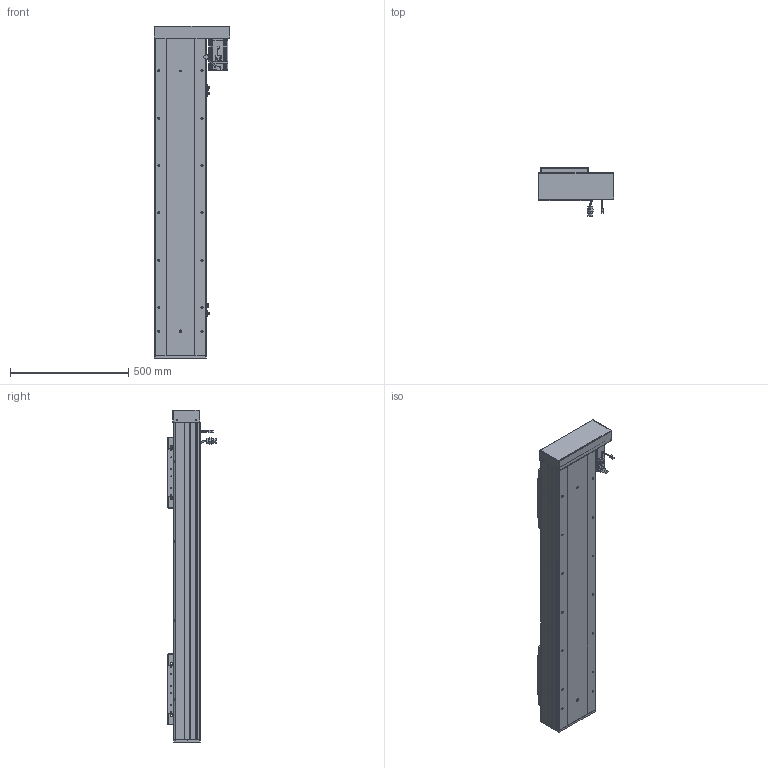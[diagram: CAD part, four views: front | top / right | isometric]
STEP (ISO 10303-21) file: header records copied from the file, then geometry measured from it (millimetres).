
FILE_DESCRIPTION (( 'STEP AP203' ), '1' );
FILE_NAME ('RY220F-L2525-800-RK-邧嶺.SLDASM_900.step', '2022-08-06T08:18:58', ( '' ), ( '' ), 'SwSTEP 2.0', 'SolidWorks 2016', '' );
FILE_SCHEMA (( 'CONFIG_CONTROL_DESIGN' ));
Length unit declared in the file: millimetre
Products named in the file (15): RY220F蛌殏菁釱-800-邧嶺_900; RY220F-蛌殏奻裔啣-800_900; 覜茼ん672; RY220F-詩湍揤踡輸; RY220F臏賑釱25-32佪裝; 怢湛750W_ECMA-CX0807ES; RY220F-滅鳥奻裔; RY220酘衵殏萇儂欶; 侐源滅袉蝶; RY220F綴裔啣; 滅袉蝶18-24; RY220左右折电机安装板; RY220F-L2525-800-RK-邧嶺.SLDASM_900; RY220F-祥凄詩湍-蛌殏-800_900; RY220F-672覜茼んえ
Assembly tree (24 placements, depth 2):
  RY220F-L2525-800-RK-邧嶺.SLDASM_900
    RY220F蛌殏菁釱-800-邧嶺_900
    RY220F-蛌殏奻裔啣-800_900  x2
    怢湛750W_ECMA-CX0807ES
    RY220F臏賑釱25-32佪裝  x2
    RY220F-滅鳥奻裔  x2
    滅袉蝶18-24  x3
    RY220F綴裔啣
    RY220F-祥凄詩湍-蛌殏-800_900
    RY220F-詩湍揤踡輸  x2
    覜茼ん672  x3
    RY220F-672覜茼んえ  x2
    RY220左右折电机安装板
    RY220酘衵殏萇儂欶
    侐源滅袉蝶  x2
Bounding box: 317.5 x 205.27 x 1403 mm (x, y, z)
Volume: 13965232.7 mm3; surface area: 3642264.9 mm2
Topology: 25 solids, 25 shells, 2744 faces, 7468 edges, 4628 vertices
Faces by surface type: cylinder 1234, plane 1044, cone 395, bspline 45, sphere 16, torus 10
Entity records: 68020 total; most frequent: CARTESIAN_POINT 18537, ORIENTED_EDGE 10006, DIRECTION 9704, EDGE_CURVE 5003, AXIS2_PLACEMENT_3D 3446, VERTEX_POINT 3244, VECTOR 2812, LINE 2812
